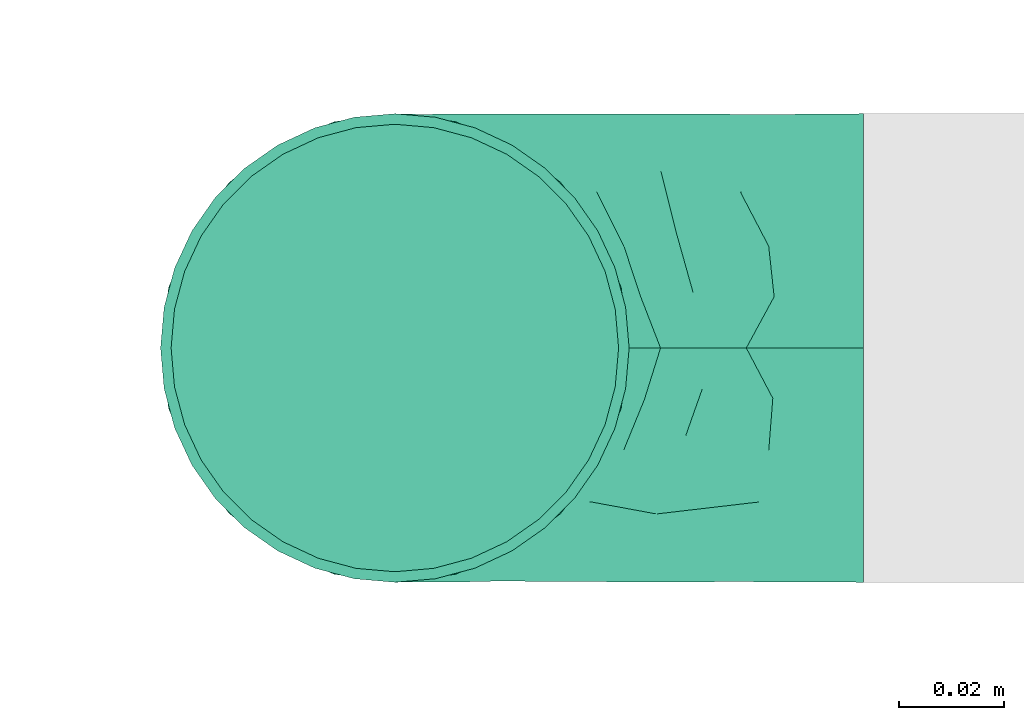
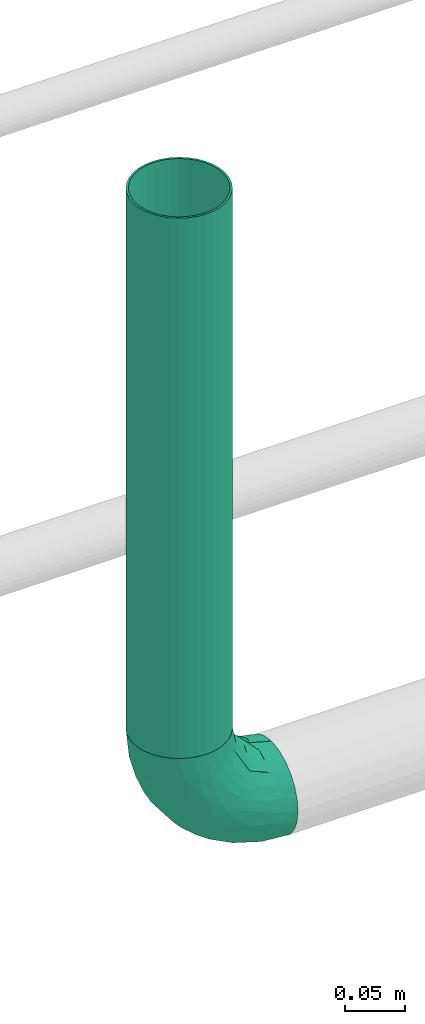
# One storey, part 40 of 43: 1 flow fitting, 1 flow segment.
"""IFC2X3 building model written with IfcOpenShell, lengths in millimetres."""

from ifc_helpers import new_model, entity, si_unit, converted_unit, derived_unit, direction, frame, origin_with_axes, place, context, subcontext, project, spatial, open_shell, faceted_brep, surface_model, source, transform, mapped, type_object, element, save


model = new_model("IFC2X3")

# Units and contexts
model_context = context("Model", 3, precision=0.01, world=frame((0.0, 4.29681676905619e-09, 0.0)), true_north=direction((4.01073788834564e-13, 1.0)))
plan_context = context("Plan", 3, precision=0.01, world=frame((0.0, 4.29681676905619e-09, 0.0)), true_north=direction((4.01073788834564e-13, 1.0)))
body_context = subcontext(model_context, "Body", "Model", "MODEL_VIEW")
ifc_project = project(units=[converted_unit("PLANEANGLEUNIT", "DEGREE", entity("IfcPositiveLengthMeasure", 0.0174532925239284), si_unit("PLANEANGLEUNIT", "RADIAN"), dimensions=[0, 0, 0, 0, 0, 0, 0]), si_unit("AREAUNIT", "SQUARE_METRE"), si_unit("LENGTHUNIT", "METRE", prefix="MILLI"), si_unit("MASSUNIT", "GRAM", prefix="KILO"), si_unit("POWERUNIT", "WATT"), si_unit("PRESSUREUNIT", "PASCAL"), si_unit("FORCEUNIT", "NEWTON", prefix="KILO"), si_unit("ELECTRICVOLTAGEUNIT", "VOLT"), si_unit("ELECTRICCURRENTUNIT", "AMPERE"), si_unit("THERMODYNAMICTEMPERATUREUNIT", "DEGREE_CELSIUS"), si_unit("TIMEUNIT", "SECOND"), si_unit("VOLUMEUNIT", "CUBIC_METRE"), derived_unit("LINEARVELOCITYUNIT", [(si_unit("LENGTHUNIT", "METRE"), 1), (si_unit("TIMEUNIT", "SECOND"), -1)]), derived_unit("VOLUMETRICFLOWRATEUNIT", [(si_unit("VOLUMEUNIT", "CUBIC_METRE"), 1), (si_unit("TIMEUNIT", "SECOND"), -1)]), derived_unit("THERMALTRANSMITTANCEUNIT", [(si_unit("POWERUNIT", "WATT"), 1), (si_unit("THERMODYNAMICTEMPERATUREUNIT", "KELVIN"), -1), (si_unit("AREAUNIT", "SQUARE_METRE"), -1)]), derived_unit("SOUNDPRESSUREUNIT", [(si_unit("PRESSUREUNIT", "PASCAL"), 1)])], contexts=[model_context, plan_context])

# Site, building, storey
site_placement = place(None, frame((0.0, -4.29681676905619e-09, 0.0), z_axis=(0.0, 0.0, 1.0), x_axis=(1.0, 0.0, 0.0)))
site = spatial("IfcSite", under=ifc_project, at=site_placement, CompositionType="ELEMENT")
building_placement = place(site_placement, frame((0.0, 4.29681676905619e-09, 0.0), z_axis=(0.0, 0.0, 1.0), x_axis=(1.0, 0.0, 0.0)))
building = spatial("IfcBuilding", under=site, at=building_placement, Name="mc-building", CompositionType="ELEMENT")
storey_placement = place(building_placement, frame((0.0, 0.0, 210900.0), z_axis=(0.0, 0.0, 1.0), x_axis=(1.0, 0.0, 0.0)))
storey = spatial("IfcBuildingStorey", under=building, at=storey_placement, Name="Nivå F", CompositionType="ELEMENT", Elevation=210900.0)

# Flow fitting
pipe_fitting_type = type_object("IfcPipeFittingType", Name="magi_pipe_fe_elbow_short_001", PredefinedType="BEND")
shared_shape = source(origin_with_axes(), body_context, "Body", "SurfaceModel", [
    surface_model("IfcShellBasedSurfaceModel", [(-89.0, 22.25, -38.53813), (-89.0, 11.51745, -42.9837), (-89.0, 0.0, -44.5), (-89.0, -31.46625, -31.46625), (-89.0, 42.9837, -11.51745), (-89.0, 38.53813, -22.25), (-89.0, 31.46625, -31.46625), (-89.0, -42.9837, 11.51745), (-89.0, -22.25, -38.53813), (-89.0, -11.51745, -42.9837), (-89.0, -38.53813, -22.25), (-89.0, -42.9837, -11.51745), (-89.0, -44.5, 0.0), (-89.0, 44.5, 0.0), (-89.0, 42.9837, 11.51745), (-89.0, 38.53813, 22.25), (-89.0, 11.51745, 42.9837), (-89.0, 22.25, 38.53813), (-89.0, 31.46625, 31.46625), (-89.0, -38.53813, 22.25), (-89.0, -31.46625, 31.46625), (-89.0, -22.25, 38.53813), (-89.0, -11.51745, 42.9837), (-89.0, 0.0, 44.5), (0.0, 89.0, -44.5), (-11.51745, 89.0, -42.9837), (-22.25, 89.0, -38.53813), (31.46625, 89.0, -31.46625), (-31.46625, 89.0, -31.46625), (-38.53813, 89.0, -22.25), (-42.9837, 89.0, -11.51745), (42.9837, 89.0, 11.51745), (11.51745, 89.0, -42.9837), (22.25, 89.0, -38.53813), (42.9837, 89.0, -11.51745), (38.53813, 89.0, -22.25), (44.5, 89.0, 0.0), (-42.9837, 89.0, 11.51745), (-44.5, 89.0, 0.0), (-11.51745, 89.0, 42.9837), (-38.53813, 89.0, 22.25), (-31.46625, 89.0, 31.46625), (-22.25, 89.0, 38.53813), (31.46625, 89.0, 31.46625), (38.53813, 89.0, 22.25), (22.25, 89.0, 38.53813), (0.0, 89.0, 44.5), (11.51745, 89.0, 42.9837), (-65.42428, -34.58934, 24.99387), (-60.92615, -39.17738, 14.07402), (-54.44766, -39.9511, 0.0), (-67.0033, -41.60408, 0.0), (20.966, 19.15286, 16.63614), (18.51857, 22.50533, 24.08448), (10.4657, 7.08355, 19.79374), (-67.98176, -5.89504, 43.73894), (-62.31445, 6.82125, 44.42415), (-11.98759, -17.38546, 13.71247), (-3.14091, -7.12033, 19.73763), (-17.39966, -17.28161, 21.15509), (-65.35987, -16.82173, 40.03398), (-34.36647, -10.72722, 37.00789), (-44.30391, -0.39934, 43.13177), (-58.22127, -25.63456, 33.14332), (-32.81793, -30.5148, 11.22345), (-38.34883, -33.28275, 0.0), (-22.25, -26.61439, 0.0), (-0.24515, 1.50726, 26.66121), (-15.28358, -10.61466, 27.57816), (-43.49903, 71.02442, 19.34125), (-37.1739, 69.28144, 29.23502), (-16.61105, 76.75956, 41.6822), (-6.09891, 66.56572, 44.3907), (-68.59708, 17.4527, 42.03662), (-11.61575, 29.80494, 43.69445), (-22.11114, 8.16361, 41.55403), (-4.54608, 24.04213, 40.89496), (-76.99086, 26.94844, 36.25967), (-15.46582, 43.76126, 44.42016), (-32.96179, 32.96179, 43.41874), (-26.49757, 19.44613, 44.27078), (-70.35301, 47.39906, 9.78402), (-71.04653, 43.49184, 19.33829), (-55.25263, 55.25263, 16.63447), (-69.56392, 37.0962, 29.20392), (25.63456, 58.22127, 33.14332), (-46.15102, 58.98863, 25.18654), (-7.94897, 7.94897, 36.38252), (33.28275, 38.34883, 0.0), (30.5148, 32.81793, 11.22345), (26.61439, 22.25, 0.0), (-32.2623, 57.51649, 37.40098), (-46.90759, 49.6971, 31.52137), (28.15678, 38.83054, 22.40746), (39.17738, 60.92615, 14.07402), (34.58934, 65.42428, 24.99387), (5.89504, 67.98176, 43.73894), (-38.83054, -28.15678, 22.40746), (41.60408, 67.0033, 0.0), (39.9511, 54.44766, 0.0), (-47.30867, 30.19441, 41.15989), (-48.89993, 19.06144, 43.70364), (-27.18633, 74.61927, 36.44428), (-46.8419, 71.78865, 9.54666), (-55.77112, 58.36681, 7.8317), (20.15578, 36.24405, 30.67717), (10.72722, 34.36646, 37.00789), (8.82969, 16.37545, 30.02978), (-50.46187, 66.75, 0.0), (-41.19565, 46.99267, 36.56569), (-61.27852, 30.20737, 37.47359), (16.82173, 65.35987, 40.03398), (-35.45256, 43.08265, 40.48995), (-25.39356, 46.06506, 42.77813), (-35.78831, -20.18199, 30.44157), (-19.24543, 60.29859, 42.38003), (-43.66621, 10.90441, 44.48101), (-57.15357, 47.81587, 24.81424), (0.39934, 44.30391, 43.13177), (4.50506, -4.03199, 11.81801), (-8.42562, -16.00657, 0.0), (5.39876, -5.39876, 0.0), (18.27854, 11.2026, 9.2952), (-66.75, 50.46187, 0.0), (16.00657, 8.42562, 0.0), (-65.62177, 38.32407, -29.64079), (-71.00581, 43.50509, -19.34374), (-36.35432, -11.23048, -37.33452), (-38.64129, -0.55509, -42.32471), (-17.87953, -0.74466, -36.46313), (-70.44691, 5.62674, -44.35517), (-42.59749, -33.40785, -14.96594), (-64.9187, -39.8376, -14.50738), (-55.9131, -33.00026, -24.10277), (-64.74306, 18.16527, -42.19806), (-49.02368, 10.51969, -44.49039), (-72.04232, 46.69365, -9.73728), (-43.29251, 50.55118, -33.51754), (-41.12712, 41.12712, -39.07257), (-54.39048, 37.59063, -35.35294), (-56.62372, 56.62371, -10.62473), (15.35741, 56.35485, -39.57726), (17.54325, 75.15597, -40.50008), (26.58599, 64.37989, -33.59817), (8.60891, -0.6174, -9.3365), (21.03491, 14.72807, -8.10637), (-18.16527, 64.74306, -42.19806), (-69.86124, 27.93071, -36.81239), (-74.91995, -35.42449, -25.85463), (-53.44587, 53.44587, -21.93397), (-38.32407, 65.62176, -29.64079), (-2.76838, -7.06072, -19.3197), (-13.25704, -8.90126, -27.75888), (3.56899, 7.13004, -28.01), (-64.37989, -26.58599, -33.59817), (24.07506, 30.03079, -22.26791), (33.00026, 55.9131, -24.10277), (31.23147, 35.6382, -13.05741), (-75.15597, -17.54325, -40.50008), (39.8376, 64.9187, -14.50738), (-48.56519, -20.31894, -34.9406), (-33.22603, -18.15266, -31.12982), (-25.41361, -19.94101, -24.51222), (15.24517, 10.92147, -16.71054), (-6.18621, -14.52322, -9.0433), (-27.62496, -28.53296, -8.93888), (-46.69365, 72.04231, -9.73728), (-56.35485, -15.35741, -39.57726), (-65.56275, -5.6109, -43.68636), (-5.62674, 70.44691, -44.35517), (1.87337, 20.9035, -37.11096), (-15.70957, 15.70957, -42.01996), (0.55509, 38.64129, -42.32471), (-43.50509, 71.00581, -19.34374), (5.6109, 65.56274, -43.68636), (35.42449, 74.91995, -25.85463), (-27.93071, 69.86124, -36.8124), (-25.96661, 24.06239, -44.47474), (-42.18599, 26.33091, -43.1755), (9.1973, 37.99016, -38.87512), (18.15266, 33.22603, -31.12982), (-54.10228, 28.63855, -40.10814), (-10.51969, 49.02368, -44.49039), (-26.53428, 43.30446, -42.96025), (-33.34568, 54.74553, -37.69591), (-22.46771, -22.93149, -16.78715)], [open_shell([[[0, 1, 2]], [[0, 2, 3]], [[4, 5, 6]], [[7, 6, 0]], [[0, 3, 7]], [[8, 3, 9]], [[3, 2, 9]], [[10, 11, 3]], [[7, 3, 11]], [[11, 12, 7]], [[13, 4, 6]], [[13, 7, 14]], [[15, 14, 16]], [[16, 17, 18]], [[15, 16, 18]], [[16, 14, 7]], [[19, 20, 7]], [[21, 7, 20]], [[22, 23, 21]], [[7, 21, 23]], [[23, 16, 7]], [[6, 7, 13]], [[24, 25, 26]], [[27, 24, 26]], [[28, 29, 30]], [[28, 30, 26]], [[31, 27, 26]], [[32, 27, 33]], [[32, 24, 27]], [[27, 34, 35]], [[34, 27, 31]], [[31, 36, 34]], [[30, 31, 26]], [[37, 31, 38]], [[39, 37, 40]], [[41, 42, 39]], [[41, 39, 40]], [[31, 37, 39]], [[31, 43, 44]], [[43, 31, 45]], [[45, 46, 47]], [[46, 45, 31]], [[31, 39, 46]], [[38, 31, 30]], [[48, 19, 49]], [[50, 49, 51]], [[52, 53, 54]], [[49, 19, 7]], [[7, 51, 49]], [[23, 55, 56]], [[20, 19, 48]], [[57, 58, 59]], [[60, 61, 62]], [[63, 21, 20]], [[63, 60, 21]], [[64, 65, 66]], [[58, 67, 68]], [[40, 69, 70]], [[39, 71, 72]], [[16, 73, 17]], [[74, 75, 76]], [[17, 77, 18]], [[22, 55, 23]], [[78, 79, 80]], [[81, 82, 83]], [[15, 84, 82]], [[85, 43, 45]], [[13, 14, 81]], [[14, 15, 82]], [[69, 86, 70]], [[84, 15, 18]], [[23, 56, 16]], [[68, 87, 61]], [[18, 77, 84]], [[88, 89, 90]], [[91, 70, 92]], [[93, 94, 95]], [[57, 59, 64]], [[40, 37, 69]], [[47, 46, 96]], [[44, 43, 95]], [[94, 31, 44]], [[49, 50, 65]], [[95, 94, 44]], [[48, 97, 63]], [[94, 98, 31]], [[94, 88, 99]], [[100, 73, 101]], [[70, 91, 102]], [[83, 103, 104]], [[105, 106, 107]], [[108, 103, 38]], [[100, 109, 110]], [[103, 83, 69]], [[85, 111, 106]], [[42, 41, 102]], [[112, 113, 91]], [[40, 70, 41]], [[21, 60, 22]], [[114, 61, 63]], [[111, 45, 47]], [[42, 71, 39]], [[46, 39, 72]], [[115, 78, 72]], [[101, 116, 80]], [[111, 85, 45]], [[110, 92, 84]], [[73, 16, 56]], [[82, 117, 83]], [[115, 113, 78]], [[96, 72, 118]], [[61, 60, 63]], [[55, 60, 62]], [[114, 63, 97]], [[61, 87, 75]], [[96, 111, 47]], [[118, 76, 106]], [[118, 106, 111]], [[106, 87, 107]], [[101, 73, 56]], [[77, 73, 110]], [[97, 48, 49]], [[63, 20, 48]], [[43, 85, 95]], [[93, 95, 85]], [[119, 120, 121]], [[57, 119, 58]], [[57, 64, 66]], [[90, 89, 122]], [[119, 121, 122]], [[106, 105, 85]], [[103, 69, 37]], [[83, 117, 86]], [[100, 112, 109]], [[115, 71, 102]], [[117, 84, 92]], [[83, 104, 81]], [[101, 80, 79]], [[118, 72, 78]], [[75, 80, 62]], [[78, 80, 74]], [[72, 96, 46]], [[111, 96, 118]], [[60, 55, 22]], [[56, 55, 62]], [[101, 56, 116]], [[100, 101, 79]], [[112, 100, 79]], [[73, 100, 110]], [[113, 112, 79]], [[109, 112, 91]], [[38, 103, 37]], [[103, 108, 104]], [[108, 123, 104]], [[104, 123, 81]], [[13, 81, 123]], [[14, 82, 81]], [[56, 62, 116]], [[62, 80, 116]], [[78, 113, 79]], [[91, 113, 115]], [[67, 87, 68]], [[53, 107, 54]], [[84, 117, 82]], [[86, 117, 92]], [[70, 86, 92]], [[83, 86, 69]], [[53, 105, 107]], [[93, 85, 105]], [[70, 102, 41]], [[115, 102, 91]], [[91, 92, 109]], [[110, 109, 92]], [[61, 75, 62]], [[76, 75, 87]], [[106, 76, 87]], [[74, 76, 118]], [[78, 74, 118]], [[75, 74, 80]], [[7, 12, 51]], [[98, 94, 99]], [[98, 36, 31]], [[65, 64, 49]], [[49, 64, 97]], [[89, 94, 93]], [[94, 89, 88]], [[93, 53, 52]], [[119, 122, 54]], [[122, 121, 124]], [[58, 119, 54]], [[57, 120, 119]], [[67, 54, 107]], [[59, 58, 68]], [[114, 59, 68]], [[64, 59, 97]], [[54, 67, 58]], [[87, 67, 107]], [[73, 77, 17]], [[84, 77, 110]], [[102, 71, 42]], [[72, 71, 115]], [[59, 114, 97]], [[68, 61, 114]], [[57, 66, 120]], [[54, 122, 52]], [[105, 53, 93]], [[122, 89, 52]], [[93, 52, 89]], [[124, 90, 122]], [[125, 5, 126]], [[127, 128, 129]], [[2, 1, 130]], [[131, 132, 133]], [[130, 134, 135]], [[134, 1, 0]], [[123, 136, 13]], [[137, 138, 139]], [[126, 136, 140]], [[141, 142, 143]], [[125, 6, 5]], [[144, 145, 124]], [[25, 146, 26]], [[134, 0, 147]], [[132, 10, 148]], [[149, 150, 137]], [[132, 51, 11]], [[151, 152, 153]], [[154, 3, 8]], [[155, 156, 157]], [[158, 154, 8]], [[159, 35, 34]], [[10, 132, 11]], [[3, 148, 10]], [[133, 154, 160]], [[158, 8, 9]], [[161, 162, 133]], [[153, 155, 163]], [[123, 108, 140]], [[164, 66, 165]], [[38, 30, 166]], [[167, 168, 128]], [[5, 4, 126]], [[25, 169, 146]], [[170, 171, 172]], [[173, 150, 149]], [[25, 24, 169]], [[33, 27, 143]], [[174, 32, 142]], [[29, 28, 150]], [[175, 27, 35]], [[26, 176, 28]], [[177, 135, 178]], [[32, 33, 142]], [[159, 157, 156]], [[139, 147, 125]], [[170, 172, 179]], [[30, 29, 173]], [[153, 170, 180]], [[168, 167, 158]], [[143, 180, 141]], [[168, 9, 2]], [[159, 98, 99]], [[147, 181, 134]], [[0, 6, 147]], [[159, 156, 175]], [[176, 26, 146]], [[182, 174, 172]], [[32, 174, 24]], [[135, 134, 178]], [[138, 183, 178]], [[173, 140, 166]], [[138, 137, 184]], [[134, 181, 178]], [[185, 151, 164]], [[173, 166, 30]], [[140, 149, 126]], [[175, 143, 27]], [[180, 143, 156]], [[172, 174, 141]], [[169, 174, 182]], [[179, 180, 170]], [[172, 171, 177]], [[159, 34, 98]], [[157, 99, 88]], [[145, 157, 90]], [[155, 157, 163]], [[167, 127, 160]], [[148, 154, 133]], [[130, 168, 2]], [[135, 177, 128]], [[135, 128, 168]], [[128, 171, 129]], [[133, 162, 131]], [[34, 36, 98]], [[6, 125, 147]], [[181, 139, 138]], [[146, 183, 184]], [[150, 28, 176]], [[126, 4, 136]], [[125, 126, 149]], [[150, 173, 29]], [[140, 173, 149]], [[180, 155, 153]], [[129, 171, 170]], [[151, 153, 163]], [[153, 152, 129]], [[153, 129, 170]], [[129, 161, 127]], [[134, 130, 1]], [[168, 130, 135]], [[174, 169, 24]], [[146, 169, 182]], [[184, 183, 138]], [[177, 171, 128]], [[183, 177, 178]], [[172, 177, 182]], [[146, 182, 183]], [[177, 183, 182]], [[185, 165, 131]], [[65, 131, 165]], [[164, 144, 121]], [[152, 162, 161]], [[144, 151, 163]], [[164, 120, 66]], [[162, 151, 185]], [[129, 152, 161]], [[13, 136, 4]], [[123, 140, 136]], [[140, 108, 166]], [[38, 166, 108]], [[151, 144, 164]], [[145, 144, 163]], [[157, 145, 163]], [[124, 121, 144]], [[145, 90, 124]], [[164, 165, 185]], [[65, 50, 131]], [[165, 66, 65]], [[50, 132, 131]], [[138, 178, 181]], [[147, 139, 181]], [[125, 149, 137]], [[137, 139, 125]], [[184, 150, 176]], [[150, 184, 137]], [[184, 176, 146]], [[151, 162, 152]], [[162, 185, 131]], [[51, 132, 50]], [[51, 12, 11]], [[143, 142, 33]], [[174, 142, 141]], [[159, 175, 35]], [[143, 175, 156]], [[168, 158, 9]], [[154, 158, 167]], [[154, 148, 3]], [[132, 148, 133]], [[99, 157, 159]], [[88, 90, 157]], [[156, 155, 180]], [[172, 141, 179]], [[180, 179, 141]], [[160, 127, 161]], [[128, 127, 167]], [[133, 160, 161]], [[167, 160, 154]], [[164, 121, 120]]])]),
])
flow_fitting_placement = place(storey_placement, frame((606166.6122, 697236.30413, 2660.0), z_axis=(0.0, -1.0, 0.0), x_axis=(0.0, 0.0, -1.0)))
element("IfcFlowFitting", 1, at=flow_fitting_placement, inside=storey, type_object=pipe_fitting_type, Name="magi_pipe_fe_elbow_short_001", context=body_context, shape_type="MappedRepresentation", body=[
    mapped(shared_shape, transform((0.0, 0.0, 0.0), scale=1.0)),
])

# Flow segment
pipe_segment_type = type_object("IfcPipeSegmentType", Name="Stålrør normaltykke", PredefinedType="RIGIDSEGMENT")
flow_segment_placement = place(storey_placement, frame((606166.6122, 697236.30413, 5181.0), z_axis=(0.0, -1.0, 0.0), x_axis=(0.0, 0.0, -1.0)))
element("IfcFlowSegment", 2, at=flow_segment_placement, inside=storey, type_object=pipe_segment_type, Name="Stålrør normaltykke", context=body_context, shape_type="Brep", body=[
    faceted_brep([(1881.0, 41.8543295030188, -7.38004755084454), (1881.0, 42.5, 0.0), (2432.0, 42.5, 0.0), (2432.0, 41.8543295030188, -7.38004755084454), (1881.0, 39.9369363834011, -14.535856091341), (2432.0, 39.9369363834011, -14.535856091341), (1881.0, 36.8060796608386, -21.25), (2432.0, 36.8060796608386, -21.25), (1881.0, 32.5568888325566, -27.3184734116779), (2432.0, 32.5568888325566, -27.3184734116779), (1881.0, 27.3184734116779, -32.5568888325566), (2432.0, 27.3184734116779, -32.5568888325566), (1881.0, 21.25, -36.8060796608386), (2432.0, 21.25, -36.8060796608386), (1881.0, 14.5358560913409, -39.9369363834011), (2432.0, 14.5358560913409, -39.9369363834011), (1881.0, 7.38004755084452, -41.8543295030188), (2432.0, 7.38004755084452, -41.8543295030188), (1881.0, -7.80712334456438e-15, -42.5), (2432.0, -7.80712334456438e-15, -42.5), (1881.0, -7.38004755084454, -41.8543295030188), (2432.0, -7.38004755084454, -41.8543295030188), (1881.0, -14.5358560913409, -39.9369363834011), (2432.0, -14.5358560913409, -39.9369363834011), (1881.0, -21.25, -36.8060796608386), (2432.0, -21.25, -36.8060796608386), (1881.0, -27.3184734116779, -32.5568888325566), (2432.0, -27.3184734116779, -32.5568888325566), (1881.0, -32.5568888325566, -27.3184734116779), (2432.0, -32.5568888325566, -27.3184734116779), (1881.0, -36.8060796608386, -21.25), (2432.0, -36.8060796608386, -21.25), (1881.0, -39.9369363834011, -14.5358560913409), (2432.0, -39.9369363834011, -14.5358560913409), (1881.0, -41.8543295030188, -7.38004755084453), (2432.0, -41.8543295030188, -7.38004755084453), (1881.0, -42.5, 5.20474889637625e-15), (2432.0, -42.5, 5.20474889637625e-15), (1881.0, -41.8543295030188, 7.38004755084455), (2432.0, -41.8543295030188, 7.38004755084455), (1881.0, -39.9369363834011, 14.5358560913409), (2432.0, -39.9369363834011, 14.5358560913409), (1881.0, -36.8060796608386, 21.25), (2432.0, -36.8060796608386, 21.25), (1881.0, -32.5568888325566, 27.3184734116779), (2432.0, -32.5568888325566, 27.3184734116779), (1881.0, -27.3184734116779, 32.5568888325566), (2432.0, -27.3184734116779, 32.5568888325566), (1881.0, -21.25, 36.8060796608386), (2432.0, -21.25, 36.8060796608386), (1881.0, -14.5358560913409, 39.9369363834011), (2432.0, -14.5358560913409, 39.9369363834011), (1881.0, -7.38004755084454, 41.8543295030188), (2432.0, -7.38004755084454, 41.8543295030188), (1881.0, 2.60237444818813e-15, 42.5), (2432.0, 2.60237444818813e-15, 42.5), (1881.0, 7.38004755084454, 41.8543295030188), (2432.0, 7.38004755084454, 41.8543295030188), (1881.0, 14.5358560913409, 39.9369363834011), (2432.0, 14.5358560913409, 39.9369363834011), (1881.0, 21.25, 36.8060796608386), (2432.0, 21.25, 36.8060796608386), (1881.0, 27.3184734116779, 32.5568888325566), (2432.0, 27.3184734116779, 32.5568888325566), (1881.0, 32.5568888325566, 27.3184734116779), (2432.0, 32.5568888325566, 27.3184734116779), (1881.0, 36.8060796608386, 21.25), (2432.0, 36.8060796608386, 21.25), (1881.0, 39.9369363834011, 14.5358560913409), (2432.0, 39.9369363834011, 14.5358560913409), (1881.0, 41.8543295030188, 7.38004755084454), (2432.0, 41.8543295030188, 7.38004755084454), (1881.0, 44.5, 0.0), (1881.0, 43.8239450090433, -7.7273439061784), (2432.0, 43.8239450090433, -7.7273439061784), (2432.0, 44.5, 0.0), (1881.0, 43.8239450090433, 7.7273439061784), (2432.0, 43.8239450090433, 7.7273439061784), (1881.0, 41.8163216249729, 15.2198963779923), (2432.0, 41.8163216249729, 15.2198963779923), (1881.0, 38.5381304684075, 22.25), (2432.0, 38.5381304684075, 22.25), (1881.0, 34.0889777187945, 28.604048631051), (2432.0, 34.0889777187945, 28.604048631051), (1881.0, 28.604048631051, 34.0889777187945), (2432.0, 28.604048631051, 34.0889777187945), (1881.0, 22.25, 38.5381304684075), (2432.0, 22.25, 38.5381304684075), (1881.0, 15.2198963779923, 41.8163216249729), (2432.0, 15.2198963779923, 41.8163216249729), (1881.0, 7.7273439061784, 43.8239450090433), (2432.0, 7.7273439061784, 43.8239450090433), (1881.0, 2.72483912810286e-15, 44.5), (2432.0, 2.72483912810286e-15, 44.5), (1881.0, -7.7273439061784, 43.8239450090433), (2432.0, -7.7273439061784, 43.8239450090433), (1881.0, -15.2198963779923, 41.8163216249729), (2432.0, -15.2198963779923, 41.8163216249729), (1881.0, -22.25, 38.5381304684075), (2432.0, -22.25, 38.5381304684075), (1881.0, -28.604048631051, 34.0889777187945), (2432.0, -28.604048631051, 34.0889777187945), (1881.0, -34.0889777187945, 28.604048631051), (2432.0, -34.0889777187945, 28.604048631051), (1881.0, -38.5381304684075, 22.25), (2432.0, -38.5381304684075, 22.25), (1881.0, -41.8163216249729, 15.2198963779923), (2432.0, -41.8163216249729, 15.2198963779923), (1881.0, -43.8239450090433, 7.72734390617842), (2432.0, -43.8239450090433, 7.72734390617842), (1881.0, -44.5, 5.44967825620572e-15), (2432.0, -44.5, 5.44967825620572e-15), (1881.0, -43.8239450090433, -7.72734390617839), (2432.0, -43.8239450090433, -7.72734390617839), (1881.0, -41.8163216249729, -15.2198963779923), (2432.0, -41.8163216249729, -15.2198963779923), (1881.0, -38.5381304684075, -22.25), (2432.0, -38.5381304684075, -22.25), (1881.0, -34.0889777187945, -28.604048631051), (2432.0, -34.0889777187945, -28.604048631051), (1881.0, -28.604048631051, -34.0889777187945), (2432.0, -28.604048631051, -34.0889777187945), (1881.0, -22.25, -38.5381304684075), (2432.0, -22.25, -38.5381304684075), (1881.0, -15.2198963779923, -41.8163216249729), (2432.0, -15.2198963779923, -41.8163216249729), (1881.0, -7.7273439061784, -43.8239450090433), (2432.0, -7.7273439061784, -43.8239450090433), (1881.0, -8.17451738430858e-15, -44.5), (2432.0, -8.17451738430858e-15, -44.5), (1881.0, 7.72734390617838, -43.8239450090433), (2432.0, 7.72734390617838, -43.8239450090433), (1881.0, 15.2198963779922, -41.8163216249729), (2432.0, 15.2198963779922, -41.8163216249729), (1881.0, 22.25, -38.5381304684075), (2432.0, 22.25, -38.5381304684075), (1881.0, 28.604048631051, -34.0889777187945), (2432.0, 28.604048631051, -34.0889777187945), (1881.0, 34.0889777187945, -28.604048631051), (2432.0, 34.0889777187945, -28.604048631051), (1881.0, 38.5381304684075, -22.25), (2432.0, 38.5381304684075, -22.25), (1881.0, 41.8163216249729, -15.2198963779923), (2432.0, 41.8163216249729, -15.2198963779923)], [[[0, 1, 2, 3]], [[4, 0, 3, 5]], [[6, 4, 5, 7]], [[8, 6, 7, 9]], [[10, 8, 9, 11]], [[12, 10, 11, 13]], [[14, 12, 13, 15]], [[16, 14, 15, 17]], [[18, 16, 17, 19]], [[20, 18, 19, 21]], [[22, 20, 21, 23]], [[24, 22, 23, 25]], [[26, 24, 25, 27]], [[28, 26, 27, 29]], [[30, 28, 29, 31]], [[32, 30, 31, 33]], [[34, 32, 33, 35]], [[36, 34, 35, 37]], [[38, 36, 37, 39]], [[40, 38, 39, 41]], [[42, 40, 41, 43]], [[44, 42, 43, 45]], [[46, 44, 45, 47]], [[48, 46, 47, 49]], [[50, 48, 49, 51]], [[52, 50, 51, 53]], [[54, 52, 53, 55]], [[56, 54, 55, 57]], [[58, 56, 57, 59]], [[60, 58, 59, 61]], [[62, 60, 61, 63]], [[64, 62, 63, 65]], [[66, 64, 65, 67]], [[68, 66, 67, 69]], [[70, 68, 69, 71]], [[1, 70, 71, 2]], [[72, 73, 74, 75]], [[76, 72, 75, 77]], [[78, 76, 77, 79]], [[80, 78, 79, 81]], [[82, 80, 81, 83]], [[84, 82, 83, 85]], [[86, 84, 85, 87]], [[88, 86, 87, 89]], [[90, 88, 89, 91]], [[92, 90, 91, 93]], [[94, 92, 93, 95]], [[96, 94, 95, 97]], [[98, 96, 97, 99]], [[100, 98, 99, 101]], [[102, 100, 101, 103]], [[104, 102, 103, 105]], [[106, 104, 105, 107]], [[108, 106, 107, 109]], [[110, 108, 109, 111]], [[112, 110, 111, 113]], [[114, 112, 113, 115]], [[116, 114, 115, 117]], [[118, 116, 117, 119]], [[120, 118, 119, 121]], [[122, 120, 121, 123]], [[124, 122, 123, 125]], [[126, 124, 125, 127]], [[128, 126, 127, 129]], [[130, 128, 129, 131]], [[132, 130, 131, 133]], [[134, 132, 133, 135]], [[136, 134, 135, 137]], [[138, 136, 137, 139]], [[140, 138, 139, 141]], [[142, 140, 141, 143]], [[73, 142, 143, 74]], [[75, 74, 143, 141, 139, 137, 135, 133, 131, 129, 127, 125, 123, 121, 119, 117, 115, 113, 111, 109, 107, 105, 103, 101, 99, 97, 95, 93, 91, 89, 87, 85, 83, 81, 79, 77], [2, 71, 69, 67, 65, 63, 61, 59, 57, 55, 53, 51, 49, 47, 45, 43, 41, 39, 37, 35, 33, 31, 29, 27, 25, 23, 21, 19, 17, 15, 13, 11, 9, 7, 5, 3]], [[76, 78, 80, 82, 84, 86, 88, 90, 92, 94, 96, 98, 100, 102, 104, 106, 108, 110, 112, 114, 116, 118, 120, 122, 124, 126, 128, 130, 132, 134, 136, 138, 140, 142, 73, 72], [4, 6, 8, 10, 12, 14, 16, 18, 20, 22, 24, 26, 28, 30, 32, 34, 36, 38, 40, 42, 44, 46, 48, 50, 52, 54, 56, 58, 60, 62, 64, 66, 68, 70, 1, 0]]], orient=[[False], [False], [False], [False], [False], [False], [False], [False], [False], [False], [False], [False], [False], [False], [False], [False], [False], [False], [False], [False], [False], [False], [False], [False], [False], [False], [False], [False], [False], [False], [False], [False], [False], [False], [False], [False], [False], [False], [False], [False], [False], [False], [False], [False], [False], [False], [False], [False], [False], [False], [False], [False], [False], [False], [False], [False], [False], [False], [False], [False], [False], [False], [False], [False], [False], [False], [False], [False], [False], [False], [False], [False], [False, False], [False, False]]),
])

save(model, "model.ifc")
